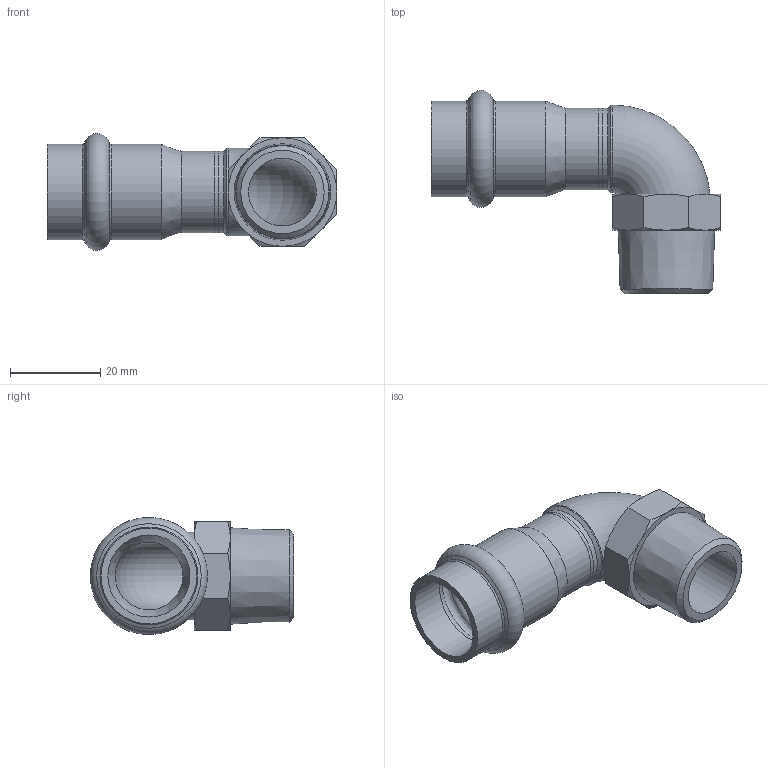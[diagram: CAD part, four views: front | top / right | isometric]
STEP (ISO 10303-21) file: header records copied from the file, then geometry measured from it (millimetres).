
FILE_DESCRIPTION((''),'2;1');
FILE_NAME('G:\Nirosan-Schmiedefeld\Technics\CAD\001 Serie 9.000\018\69092AG1812H(1).stp','2017-05-11T15:12:58',('herberg'),(''),'Autodesk Inventor 2009','Autodesk Inventor 2009','');
FILE_SCHEMA(('AUTOMOTIVE_DESIGN { 1 0 10303 214 1 1 1 1 }'));
Length unit declared in the file: millimetre
Products named in the file (3): 69092AG1812H(1); 69ATWAG1812P(0); 69HM18P(1)
Assembly tree (2 placements, depth 2):
  69092AG1812H(1)
    69ATWAG1812P(0)
    69HM18P(1)
Bounding box: 64 x 44.95 x 25.89 mm (x, y, z)
Volume: 10608.5 mm3; surface area: 10256.8 mm2
Topology: 2 solids, 2 shells, 55 faces, 114 edges, 65 vertices
Faces by surface type: cone 23, plane 14, cylinder 10, torus 5, bspline 3
Full cylindrical faces by diameter (mm): 15 x3, 18 x2, 18.15 x2, 19.4 x1, 21.15 x2
Entity records: 1636 total; most frequent: CARTESIAN_POINT 587, DIRECTION 212, ORIENTED_EDGE 172, AXIS2_PLACEMENT_3D 102, EDGE_CURVE 86, EDGE_LOOP 86, VERTEX_POINT 62, FACE_OUTER_BOUND 55
